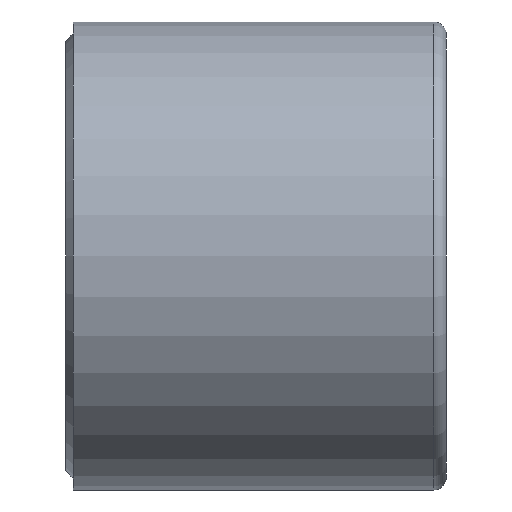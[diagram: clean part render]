
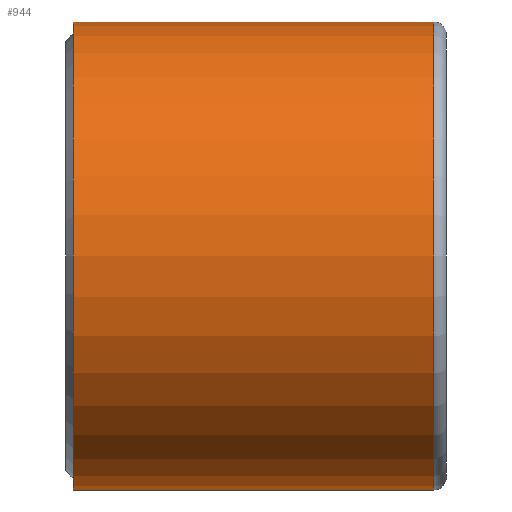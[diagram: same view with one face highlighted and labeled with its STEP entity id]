
A CAD part, front view. The second image highlights one B-rep face of the part: STEP entity #944.
In plain terms, the highlighted cylindrical face has radius 35.344 mm (diameter 70.688 mm), a partial arc.
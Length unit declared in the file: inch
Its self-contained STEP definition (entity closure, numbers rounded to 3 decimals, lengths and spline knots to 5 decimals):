
#34 = DIRECTION ( 'NONE',  ( 0., 0., 1. ) ) ;
#46 = DIRECTION ( 'NONE',  ( -1., 0., 0. ) ) ;
#102 = CARTESIAN_POINT ( 'NONE',  ( 2.18924, 0., 0. ) ) ;
#116 = LINE ( 'NONE', #837, #833 ) ;
#128 = CYLINDRICAL_SURFACE ( 'NONE', #321, 1.3915 ) ;
#169 = VERTEX_POINT ( 'NONE', #421 ) ;
#181 = VERTEX_POINT ( 'NONE', #444 ) ;
#204 = VERTEX_POINT ( 'NONE', #651 ) ;
#217 = EDGE_LOOP ( 'NONE', ( #317, #698, #350, #602 ) ) ;
#235 = AXIS2_PLACEMENT_3D ( 'NONE', #673, #905, #676 ) ;
#296 = VERTEX_POINT ( 'NONE', #943 ) ;
#317 = ORIENTED_EDGE ( 'NONE', *, *, #581, .F. ) ;
#321 = AXIS2_PLACEMENT_3D ( 'NONE', #911, #477, #34 ) ;
#350 = ORIENTED_EDGE ( 'NONE', *, *, #694, .T. ) ;
#362 = CIRCLE ( 'NONE', #235, 1.3915 ) ;
#405 = DIRECTION ( 'NONE',  ( -1., 0., 0. ) ) ;
#410 = VECTOR ( 'NONE', #46, 39.37008 ) ;
#421 = CARTESIAN_POINT ( 'NONE',  ( 2.18924, 0., 1.3915 ) ) ;
#444 = CARTESIAN_POINT ( 'NONE',  ( 2.18924, 0., -1.3915 ) ) ;
#477 = DIRECTION ( 'NONE',  ( -1., 0., 0. ) ) ;
#518 = EDGE_CURVE ( 'NONE', #204, #296, #362, .T. ) ;
#581 = EDGE_CURVE ( 'NONE', #181, #204, #116, .T. ) ;
#602 = ORIENTED_EDGE ( 'NONE', *, *, #518, .F. ) ;
#651 = CARTESIAN_POINT ( 'NONE',  ( 0.04474, 0., -1.3915 ) ) ;
#668 = DIRECTION ( 'NONE',  ( -1., 0., 0. ) ) ;
#673 = CARTESIAN_POINT ( 'NONE',  ( 0.04474, 0., 0. ) ) ;
#676 = DIRECTION ( 'NONE',  ( 0., 0., 1. ) ) ;
#683 = CIRCLE ( 'NONE', #892, 1.3915 ) ;
#694 = EDGE_CURVE ( 'NONE', #169, #296, #862, .T. ) ;
#698 = ORIENTED_EDGE ( 'NONE', *, *, #806, .T. ) ;
#753 = DIRECTION ( 'NONE',  ( 0., 0., 1. ) ) ;
#806 = EDGE_CURVE ( 'NONE', #181, #169, #683, .T. ) ;
#833 = VECTOR ( 'NONE', #405, 39.37008 ) ;
#837 = CARTESIAN_POINT ( 'NONE',  ( 0., 0., -1.3915 ) ) ;
#862 = LINE ( 'NONE', #930, #410 ) ;
#892 = AXIS2_PLACEMENT_3D ( 'NONE', #102, #668, #753 ) ;
#905 = DIRECTION ( 'NONE',  ( -1., 0., 0. ) ) ;
#911 = CARTESIAN_POINT ( 'NONE',  ( 0., 0., 0. ) ) ;
#924 = FACE_OUTER_BOUND ( 'NONE', #217, .T. ) ;
#930 = CARTESIAN_POINT ( 'NONE',  ( 0., 0., 1.3915 ) ) ;
#943 = CARTESIAN_POINT ( 'NONE',  ( 0.04474, 0., 1.3915 ) ) ;
#944 = ADVANCED_FACE ( 'NONE', ( #924 ), #128, .T. ) ;
